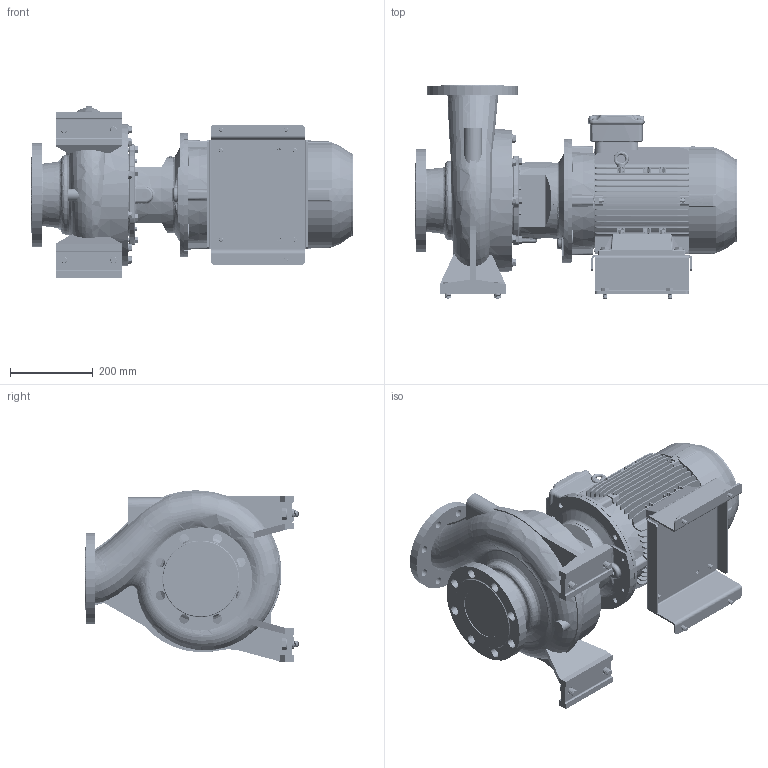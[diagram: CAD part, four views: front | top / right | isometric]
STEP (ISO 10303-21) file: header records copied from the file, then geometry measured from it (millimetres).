
FILE_DESCRIPTION (( 'STEP AP214' ), '1' );
FILE_NAME ('GSD4 100-250_7.5_(132M)_W21.STEP', '2026-07-01T05:34:54', ( '' ), ( '' ), 'SwSTEP 2.0', 'SolidWorks 2024', '' );
FILE_SCHEMA (( 'AUTOMOTIVE_DESIGN' ));
Length unit declared in the file: millimetre
Products named in the file (9): 100-250-132M_ﾃﾞﾌｫﾙﾄ; Parametric Flat Washer_M12; 140_178 x 93 BP - CGSDA-5244; GSD4 100-250_7.5_(132M)_W21; 132M ALIE3_W21T_B35; Parametric bolt_SFT-A351B; Parametric bolt_SFT-A249B; Parametric Flat Washer_M10; Parametric bolt_SFT-A253B
Assembly tree (27 placements, depth 2):
  GSD4 100-250_7.5_(132M)_W21
    100-250-132M_ﾃﾞﾌｫﾙﾄ
    140_178 x 93 BP - CGSDA-5244
    Parametric bolt_SFT-A249B  x4
    Parametric bolt_SFT-A253B  x4
    Parametric bolt_SFT-A351B  x4
    Parametric Flat Washer_M12  x4
    Parametric Flat Washer_M10  x8
    132M ALIE3_W21T_B35
Bounding box: 779.8 x 518 x 413.99 mm (x, y, z)
Volume: 41614356.3 mm3; surface area: 2474943.9 mm2
Topology: 30 solids, 30 shells, 5184 faces, 13446 edges, 8663 vertices
Faces by surface type: plane 2973, cylinder 1285, bspline 310, torus 307, cone 277, sphere 32
Entity records: 191476 total; most frequent: CARTESIAN_POINT 79296, ORIENTED_EDGE 24318, DIRECTION 21621, EDGE_CURVE 12159, VECTOR 7899, LINE 7899, VERTEX_POINT 7844, AXIS2_PLACEMENT_3D 6861
